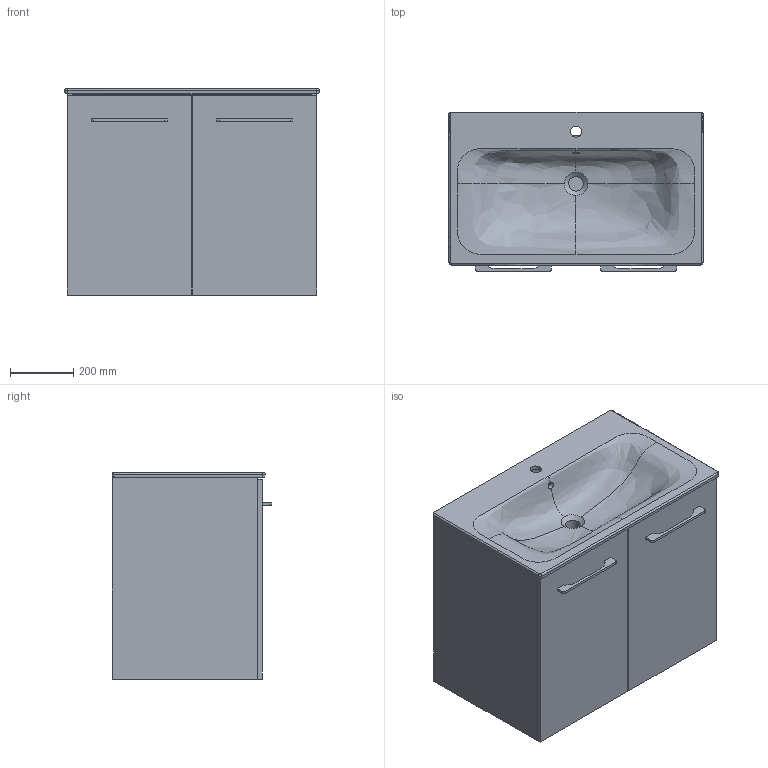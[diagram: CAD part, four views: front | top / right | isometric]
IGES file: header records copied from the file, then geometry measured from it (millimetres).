
Global section: file name: 501256; native system: Autodesk Inventor 2018; preprocessor: unknown; author: JANAN; date: 20200501.054656; units: millimetre
Bounding box: 801.06 x 502.03 x 651.5 mm (x, y, z)
Volume: 38849758.9 mm3; surface area: 4822708.8 mm2
Topology: 4 solids, 4 shells, 179 faces, 493 edges, 324 vertices
Faces by surface type: bspline 179
